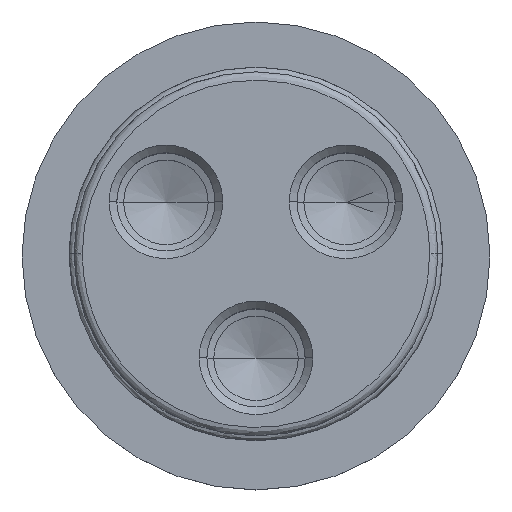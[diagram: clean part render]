
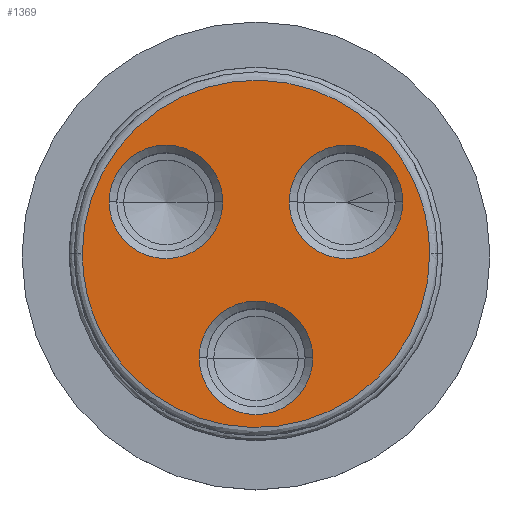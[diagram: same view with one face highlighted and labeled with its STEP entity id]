
A CAD part, top view. The second image highlights one B-rep face of the part: STEP entity #1369.
In plain terms, the highlighted planar face has unit normal (0, 0, 1).
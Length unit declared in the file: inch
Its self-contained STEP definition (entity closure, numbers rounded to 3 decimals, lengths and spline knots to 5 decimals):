
#31 = ORIENTED_EDGE ( 'NONE', *, *, #1325, .T. ) ;
#45 = VERTEX_POINT ( 'NONE', #50 ) ;
#50 = CARTESIAN_POINT ( 'NONE',  ( -0.15991, 0.25, 0. ) ) ;
#52 = AXIS2_PLACEMENT_3D ( 'NONE', #1113, #1683, #130 ) ;
#53 = FACE_OUTER_BOUND ( 'NONE', #1716, .T. ) ;
#117 = CARTESIAN_POINT ( 'NONE',  ( -0.835, 0., 0. ) ) ;
#119 = CARTESIAN_POINT ( 'NONE',  ( -0.70611, 0.25, 0. ) ) ;
#125 = CARTESIAN_POINT ( 'NONE',  ( -0.2731, -0.5, 0. ) ) ;
#130 = DIRECTION ( 'NONE',  ( 1., 0., 0. ) ) ;
#143 =( BOUNDED_CURVE ( )  B_SPLINE_CURVE ( 3, ( #288, #1875, #2457, #1859 ),
 .UNSPECIFIED., .F., .T. ) 
 B_SPLINE_CURVE_WITH_KNOTS ( ( 4, 4 ),
 ( 0., 1. ),
 .UNSPECIFIED. ) 
 CURVE ( )  GEOMETRIC_REPRESENTATION_ITEM ( )  RATIONAL_B_SPLINE_CURVE ( ( 1., 0.333, 0.333, 1. ) ) 
 REPRESENTATION_ITEM ( '' )  );
#157 = CARTESIAN_POINT ( 'NONE',  ( 0.2731, -0.5, 0. ) ) ;
#163 = CIRCLE ( 'NONE', #2471, 0.2731 ) ;
#211 = CIRCLE ( 'NONE', #1539, 0.2731 ) ;
#288 = CARTESIAN_POINT ( 'NONE',  ( 0.835, 0., 0. ) ) ;
#300 = EDGE_CURVE ( 'NONE', #1417, #45, #163, .T. ) ;
#306 = CARTESIAN_POINT ( 'NONE',  ( 0., -0.5, 0. ) ) ;
#372 = DIRECTION ( 'NONE',  ( 0., 0., 1. ) ) ;
#377 = AXIS2_PLACEMENT_3D ( 'NONE', #976, #372, #2326 ) ;
#390 = CARTESIAN_POINT ( 'NONE',  ( 0.43301, 0.25, 0. ) ) ;
#398 = DIRECTION ( 'NONE',  ( 0., 0., -1. ) ) ;
#432 = CIRCLE ( 'NONE', #732, 0.2731 ) ;
#466 = VERTEX_POINT ( 'NONE', #2299 ) ;
#510 = EDGE_LOOP ( 'NONE', ( #990, #2467 ) ) ;
#535 = CARTESIAN_POINT ( 'NONE',  ( 0.43301, 0.25, 0. ) ) ;
#584 = ORIENTED_EDGE ( 'NONE', *, *, #1181, .F. ) ;
#690 = CARTESIAN_POINT ( 'NONE',  ( -0.835, 0., 0. ) ) ;
#708 = CARTESIAN_POINT ( 'NONE',  ( 0.835, 0., 0. ) ) ;
#732 = AXIS2_PLACEMENT_3D ( 'NONE', #1972, #1388, #1011 ) ;
#752 = DIRECTION ( 'NONE',  ( 1., 0., 0. ) ) ;
#777 = EDGE_LOOP ( 'NONE', ( #1670, #2362 ) ) ;
#880 = CIRCLE ( 'NONE', #2479, 0.2731 ) ;
#976 = CARTESIAN_POINT ( 'NONE',  ( 0., 0., 0. ) ) ;
#990 = ORIENTED_EDGE ( 'NONE', *, *, #1618, .T. ) ;
#1011 = DIRECTION ( 'NONE',  ( 1., 0., 0. ) ) ;
#1039 = VERTEX_POINT ( 'NONE', #2217 ) ;
#1064 = EDGE_CURVE ( 'NONE', #2379, #466, #1685, .T. ) ;
#1113 = CARTESIAN_POINT ( 'NONE',  ( 0., -0.5, 0. ) ) ;
#1181 = EDGE_CURVE ( 'NONE', #466, #2379, #143, .T. ) ;
#1298 = DIRECTION ( 'NONE',  ( 0., 0., -1. ) ) ;
#1325 = EDGE_CURVE ( 'NONE', #1039, #2261, #1813, .T. ) ;
#1369 = ADVANCED_FACE ( 'NONE', ( #53, #1547, #2509, #1992 ), #1546, .T. ) ;
#1388 = DIRECTION ( 'NONE',  ( 0., 0., -1. ) ) ;
#1417 = VERTEX_POINT ( 'NONE', #119 ) ;
#1452 = EDGE_CURVE ( 'NONE', #2497, #2485, #880, .T. ) ;
#1457 = CARTESIAN_POINT ( 'NONE',  ( -0.835, 1.67, 0. ) ) ;
#1482 = CARTESIAN_POINT ( 'NONE',  ( -0.43301, 0.25, 0. ) ) ;
#1531 = EDGE_LOOP ( 'NONE', ( #2026, #31 ) ) ;
#1539 = AXIS2_PLACEMENT_3D ( 'NONE', #535, #2447, #752 ) ;
#1546 = PLANE ( 'NONE',  #377 ) ;
#1547 = FACE_BOUND ( 'NONE', #510, .T. ) ;
#1570 = EDGE_CURVE ( 'NONE', #2261, #1039, #211, .T. ) ;
#1618 = EDGE_CURVE ( 'NONE', #2485, #2497, #2351, .T. ) ;
#1670 = ORIENTED_EDGE ( 'NONE', *, *, #1969, .T. ) ;
#1683 = DIRECTION ( 'NONE',  ( 0., 0., -1. ) ) ;
#1685 =( BOUNDED_CURVE ( )  B_SPLINE_CURVE ( 3, ( #690, #1457, #1845, #708 ),
 .UNSPECIFIED., .F., .F. ) 
 B_SPLINE_CURVE_WITH_KNOTS ( ( 4, 4 ),
 ( 0., 1. ),
 .UNSPECIFIED. ) 
 CURVE ( )  GEOMETRIC_REPRESENTATION_ITEM ( )  RATIONAL_B_SPLINE_CURVE ( ( 1., 0.333, 0.333, 1. ) ) 
 REPRESENTATION_ITEM ( '' )  );
#1716 = EDGE_LOOP ( 'NONE', ( #2123, #584 ) ) ;
#1813 = CIRCLE ( 'NONE', #1961, 0.2731 ) ;
#1845 = CARTESIAN_POINT ( 'NONE',  ( 0.835, 1.67, 0. ) ) ;
#1859 = CARTESIAN_POINT ( 'NONE',  ( -0.835, 0., 0. ) ) ;
#1875 = CARTESIAN_POINT ( 'NONE',  ( 0.835, -1.67, 0. ) ) ;
#1961 = AXIS2_PLACEMENT_3D ( 'NONE', #390, #398, #2118 ) ;
#1969 = EDGE_CURVE ( 'NONE', #45, #1417, #432, .T. ) ;
#1972 = CARTESIAN_POINT ( 'NONE',  ( -0.43301, 0.25, 0. ) ) ;
#1992 = FACE_BOUND ( 'NONE', #777, .T. ) ;
#2026 = ORIENTED_EDGE ( 'NONE', *, *, #1570, .T. ) ;
#2118 = DIRECTION ( 'NONE',  ( 1., 0., 0. ) ) ;
#2123 = ORIENTED_EDGE ( 'NONE', *, *, #1064, .F. ) ;
#2217 = CARTESIAN_POINT ( 'NONE',  ( 0.15991, 0.25, 0. ) ) ;
#2244 = CARTESIAN_POINT ( 'NONE',  ( 0.70611, 0.25, 0. ) ) ;
#2261 = VERTEX_POINT ( 'NONE', #2244 ) ;
#2299 = CARTESIAN_POINT ( 'NONE',  ( 0.835, 0., 0. ) ) ;
#2326 = DIRECTION ( 'NONE',  ( 1., 0., 0. ) ) ;
#2351 = CIRCLE ( 'NONE', #52, 0.2731 ) ;
#2362 = ORIENTED_EDGE ( 'NONE', *, *, #300, .T. ) ;
#2379 = VERTEX_POINT ( 'NONE', #117 ) ;
#2400 = DIRECTION ( 'NONE',  ( 0., 0., -1. ) ) ;
#2409 = DIRECTION ( 'NONE',  ( 1., 0., 0. ) ) ;
#2412 = DIRECTION ( 'NONE',  ( 1., 0., 0. ) ) ;
#2447 = DIRECTION ( 'NONE',  ( 0., 0., -1. ) ) ;
#2457 = CARTESIAN_POINT ( 'NONE',  ( -0.835, -1.67, 0. ) ) ;
#2467 = ORIENTED_EDGE ( 'NONE', *, *, #1452, .T. ) ;
#2471 = AXIS2_PLACEMENT_3D ( 'NONE', #1482, #1298, #2409 ) ;
#2479 = AXIS2_PLACEMENT_3D ( 'NONE', #306, #2400, #2412 ) ;
#2485 = VERTEX_POINT ( 'NONE', #157 ) ;
#2497 = VERTEX_POINT ( 'NONE', #125 ) ;
#2509 = FACE_BOUND ( 'NONE', #1531, .T. ) ;
